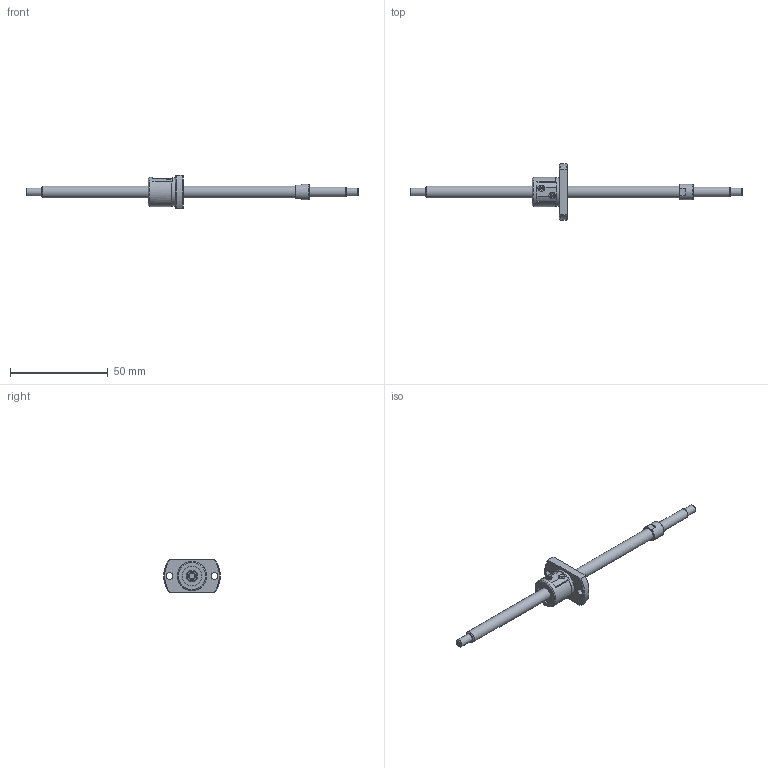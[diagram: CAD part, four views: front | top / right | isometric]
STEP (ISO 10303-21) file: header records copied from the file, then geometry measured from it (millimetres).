
FILE_DESCRIPTION(/* description */ ('STEP AP214'),/* implementation_level */ '2;1');
FILE_NAME(/* name */ 'SG0602.5-127R170C5C0X(54.5)',/* time_stamp */ '2026-07-20T20:17:46+02:00',/* author */ ('License CC BY-ND 4.0'),/* organization */ ('CADENAS'),/* preprocessor_version */ 'ST-DEVELOPER v20',/* originating_system */ 'PARTsolutions',/* authorisation */ ' ');
FILE_SCHEMA (('AUTOMOTIVE_DESIGN {1 0 10303 214 3 1 1}'));
Length unit declared in the file: millimetre
Products named in the file (3): SG0602.5-127R170C5C0X(54.5); SG0602.5-127R170C5C_shaft; SG0602.5 C5_nut
Assembly tree (2 placements, depth 2):
  SG0602.5-127R170C5C0X(54.5)
    SG0602.5-127R170C5C_shaft
    SG0602.5 C5_nut
Bounding box: 170 x 29 x 17 mm (x, y, z)
Volume: 8114.5 mm3; surface area: 5464.5 mm2
Topology: 2 solids, 2 shells, 74 faces, 179 edges, 118 vertices
Faces by surface type: plane 35, cylinder 24, cone 14, torus 1
Full cylindrical faces by diameter (mm): 3.4 x2, 4 x2, 5 x1, 6 x2, 8 x1, 10 x2, 14.6 x1, 15 x1
Entity records: 2087 total; most frequent: CARTESIAN_POINT 391, DIRECTION 352, ORIENTED_EDGE 292, AXIS2_PLACEMENT_3D 147, EDGE_CURVE 146, EDGE_LOOP 112, FACE_BOUND 112, VERTEX_POINT 108
